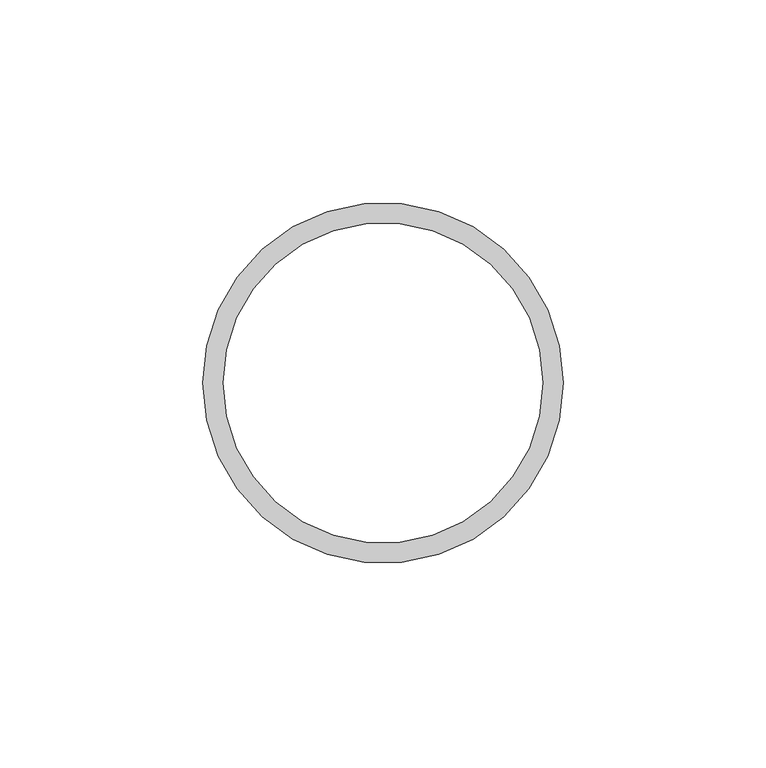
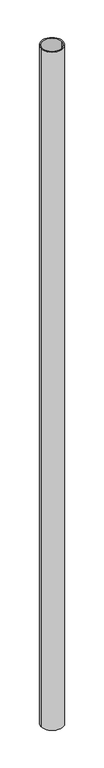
"""IFC4 building model written with IfcOpenShell, lengths in millimetres: column geometry, NLRS_28_SC_TLB_kolom buis_generiek_ISR : ø88.9x5 ."""

from ifc_helpers import new_model, si_unit, point, frame, origin, origin_2d, place, context, project, spatial, circle_curve, trimmed, segment, composite_curve, outline, extrude, source, transform, mapped, element, save


def column_07a906fe(model_context):
    return source(origin(), model_context, "Body", "SweptSolid", [
        extrude(outline(composite_curve([segment(trimmed(circle_curve(origin_2d(), 44.45), [point((44.45, 0.0))], [point((-44.45, 0.0))], False, "CARTESIAN"), True, "CONTINUOUS"), segment(trimmed(circle_curve(origin_2d(), 44.45), [point((-44.45, 0.0))], [point((44.45, 0.0))], False, "CARTESIAN"), True, "CONTINUOUS")], self_intersect=False), holes=[composite_curve([segment(trimmed(circle_curve(origin_2d(), 39.45), [point((39.45, 0.0))], [point((-39.45, 0.0))], True, "CARTESIAN"), True, "CONTINUOUS"), segment(trimmed(circle_curve(origin_2d(), 39.45), [point((-39.45, 0.0))], [point((39.45, 0.0))], True, "CARTESIAN"), True, "CONTINUOUS")], self_intersect=False)]), frame((0.0, 0.0, 3500.0), z_axis=(0.0, 0.0, 1.0), x_axis=(1.0, 0.0, 0.0)), (0.0, 0.0, 1.0), 2900.0),
    ])


if __name__ == "__main__":
    model = new_model("IFC4")
    model_context = context("Model", 3, world=origin())
    ifc_project = project(units=[si_unit("LENGTHUNIT", "METRE", prefix="MILLI")], contexts=[model_context])
    site = spatial("IfcSite", under=ifc_project)
    building = spatial("IfcBuilding", under=site)
    placement = place(None, origin())
    column_shape = column_07a906fe(model_context)
    element("IfcColumn", 1, ObjectType="NLRS_28_SC_TLB_kolom buis_generiek_ISR : ø88.9x5 ", at=placement, inside=building, context=model_context, shape_type="MappedRepresentation", body=[
        mapped(column_shape, transform((0.0, 0.0, 0.0), x_axis=(1.0, 0.0, 0.0), y_axis=(0.0, 1.0, 0.0), z_axis=(0.0, 0.0, 1.0))),
    ])
    save(model, "model.ifc")
